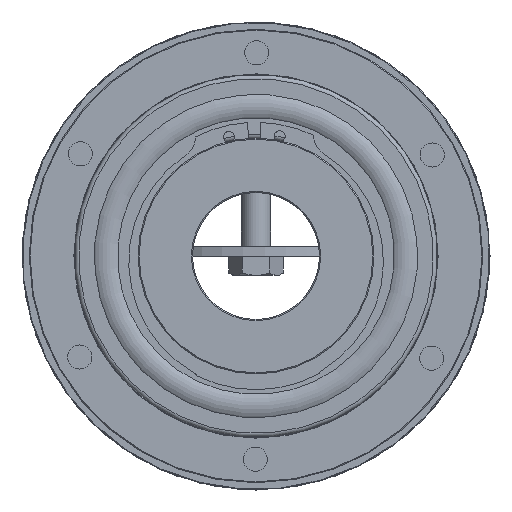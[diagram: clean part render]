
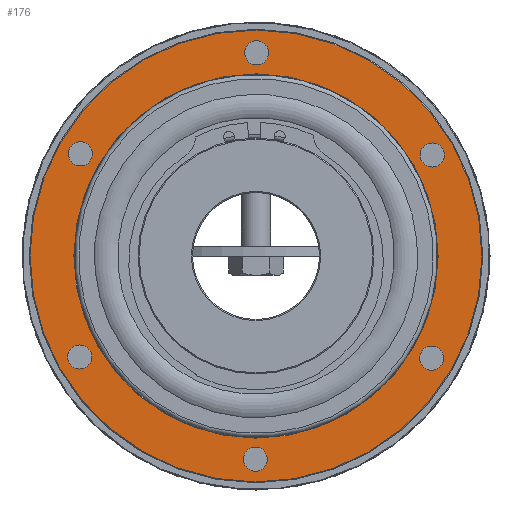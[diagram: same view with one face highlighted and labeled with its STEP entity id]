
A CAD part, left-side view. The second image highlights one B-rep face of the part: STEP entity #176.
In plain terms, the highlighted planar face has unit normal (-1, 0, 0).
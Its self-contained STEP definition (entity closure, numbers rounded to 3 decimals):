
#176 = ADVANCED_FACE( '', ( #314, #315, #316, #317, #318, #319, #320, #321 ), #322, .F. );
#314 = FACE_OUTER_BOUND( '', #480, .T. );
#315 = FACE_BOUND( '', #481, .T. );
#316 = FACE_BOUND( '', #482, .T. );
#317 = FACE_BOUND( '', #483, .T. );
#318 = FACE_BOUND( '', #484, .T. );
#319 = FACE_BOUND( '', #485, .T. );
#320 = FACE_BOUND( '', #486, .T. );
#321 = FACE_BOUND( '', #487, .T. );
#322 = PLANE( '', #488 );
#480 = EDGE_LOOP( '', ( #824 ) );
#481 = EDGE_LOOP( '', ( #825 ) );
#482 = EDGE_LOOP( '', ( #826 ) );
#483 = EDGE_LOOP( '', ( #827 ) );
#484 = EDGE_LOOP( '', ( #828 ) );
#485 = EDGE_LOOP( '', ( #829 ) );
#486 = EDGE_LOOP( '', ( #830 ) );
#487 = EDGE_LOOP( '', ( #831 ) );
#488 = AXIS2_PLACEMENT_3D( '', #832, #833, #834 );
#824 = ORIENTED_EDGE( '', *, *, #1386, .T. );
#825 = ORIENTED_EDGE( '', *, *, #1381, .T. );
#826 = ORIENTED_EDGE( '', *, *, #1370, .T. );
#827 = ORIENTED_EDGE( '', *, *, #1361, .T. );
#828 = ORIENTED_EDGE( '', *, *, #1377, .T. );
#829 = ORIENTED_EDGE( '', *, *, #1387, .T. );
#830 = ORIENTED_EDGE( '', *, *, #1367, .T. );
#831 = ORIENTED_EDGE( '', *, *, #1374, .T. );
#832 = CARTESIAN_POINT( '', ( -23.16, 62.5, 0. ) );
#833 = DIRECTION( '', ( 1., 0., 0. ) );
#834 = DIRECTION( '', ( 0., 1., 0. ) );
#1361 = EDGE_CURVE( '', #1888, #1888, #1889, .T. );
#1367 = EDGE_CURVE( '', #1898, #1898, #1899, .T. );
#1370 = EDGE_CURVE( '', #1903, #1903, #1904, .T. );
#1374 = EDGE_CURVE( '', #1909, #1909, #1910, .T. );
#1377 = EDGE_CURVE( '', #1914, #1914, #1915, .T. );
#1381 = EDGE_CURVE( '', #1920, #1920, #1921, .T. );
#1386 = EDGE_CURVE( '', #1927, #1927, #1928, .T. );
#1387 = EDGE_CURVE( '', #1929, #1929, #1930, .T. );
#1888 = VERTEX_POINT( '', #2972 );
#1889 = CIRCLE( '', #2973, 3.324 );
#1898 = VERTEX_POINT( '', #2982 );
#1899 = CIRCLE( '', #2983, 3.324 );
#1903 = VERTEX_POINT( '', #2987 );
#1904 = CIRCLE( '', #2988, 3.324 );
#1909 = VERTEX_POINT( '', #2993 );
#1910 = CIRCLE( '', #2994, 3.324 );
#1914 = VERTEX_POINT( '', #2998 );
#1915 = CIRCLE( '', #2999, 3.324 );
#1920 = VERTEX_POINT( '', #3004 );
#1921 = CIRCLE( '', #3005, 50.2 );
#1927 = VERTEX_POINT( '', #3011 );
#1928 = CIRCLE( '', #3012, 62.3 );
#1929 = VERTEX_POINT( '', #3013 );
#1930 = CIRCLE( '', #3014, 3.324 );
#2972 = CARTESIAN_POINT( '', ( -23.16, 51.376, -29.662 ) );
#2973 = AXIS2_PLACEMENT_3D( '', #3299, #3300, #3301 );
#2982 = CARTESIAN_POINT( '', ( -23.16, -51.376, 29.662 ) );
#2983 = AXIS2_PLACEMENT_3D( '', #3311, #3312, #3313 );
#2987 = CARTESIAN_POINT( '', ( -23.16, 51.376, 29.662 ) );
#2988 = AXIS2_PLACEMENT_3D( '', #3317, #3318, #3319 );
#2993 = CARTESIAN_POINT( '', ( -23.16, 0., 59.324 ) );
#2994 = AXIS2_PLACEMENT_3D( '', #3323, #3324, #3325 );
#2998 = CARTESIAN_POINT( '', ( -23.16, 0., -59.324 ) );
#2999 = AXIS2_PLACEMENT_3D( '', #3329, #3330, #3331 );
#3004 = CARTESIAN_POINT( '', ( -23.16, 0., -50.2 ) );
#3005 = AXIS2_PLACEMENT_3D( '', #3335, #3336, #3337 );
#3011 = CARTESIAN_POINT( '', ( -23.16, 0., -62.3 ) );
#3012 = AXIS2_PLACEMENT_3D( '', #3341, #3342, #3343 );
#3013 = CARTESIAN_POINT( '', ( -23.16, -51.376, -29.662 ) );
#3014 = AXIS2_PLACEMENT_3D( '', #3344, #3345, #3346 );
#3299 = CARTESIAN_POINT( '', ( -23.16, 48.497, -28. ) );
#3300 = DIRECTION( '', ( 1., 0., 0. ) );
#3301 = DIRECTION( '', ( 0., 0.866, -0.5 ) );
#3311 = CARTESIAN_POINT( '', ( -23.16, -48.497, 28. ) );
#3312 = DIRECTION( '', ( 1., 0., 0. ) );
#3313 = DIRECTION( '', ( 0., -0.866, 0.5 ) );
#3317 = CARTESIAN_POINT( '', ( -23.16, 48.497, 28. ) );
#3318 = DIRECTION( '', ( 1., 0., 0. ) );
#3319 = DIRECTION( '', ( 0., 0.866, 0.5 ) );
#3323 = CARTESIAN_POINT( '', ( -23.16, 0., 56. ) );
#3324 = DIRECTION( '', ( 1., 0., 0. ) );
#3325 = DIRECTION( '', ( 0., 0., 1. ) );
#3329 = CARTESIAN_POINT( '', ( -23.16, 0., -56. ) );
#3330 = DIRECTION( '', ( 1., 0., 0. ) );
#3331 = DIRECTION( '', ( 0., 0., -1. ) );
#3335 = CARTESIAN_POINT( '', ( -23.16, 0., 0. ) );
#3336 = DIRECTION( '', ( 1., 0., 0. ) );
#3337 = DIRECTION( '', ( 0., 0., -1. ) );
#3341 = CARTESIAN_POINT( '', ( -23.16, 0., 0. ) );
#3342 = DIRECTION( '', ( -1., 0., 0. ) );
#3343 = DIRECTION( '', ( 0., 0., -1. ) );
#3344 = CARTESIAN_POINT( '', ( -23.16, -48.497, -28. ) );
#3345 = DIRECTION( '', ( 1., 0., 0. ) );
#3346 = DIRECTION( '', ( 0., -0.866, -0.5 ) );
